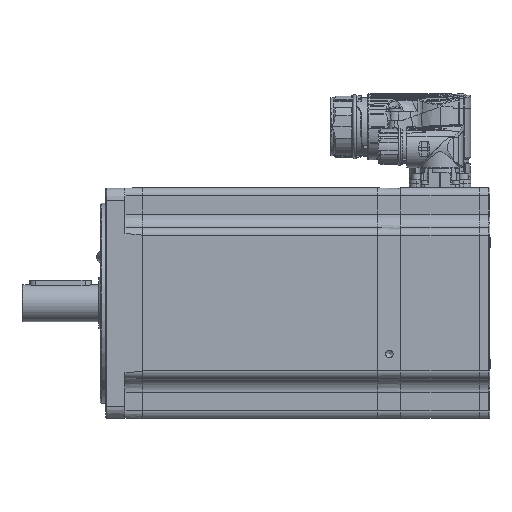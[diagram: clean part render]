
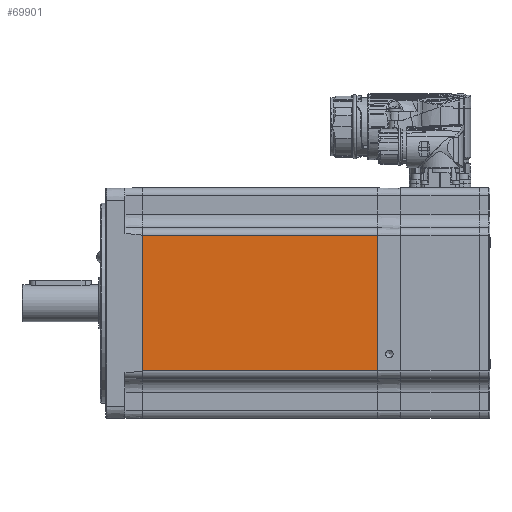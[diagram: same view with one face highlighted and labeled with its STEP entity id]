
A CAD part, left-side view. The second image highlights one B-rep face of the part: STEP entity #69901.
In plain terms, the highlighted planar face has unit normal (-1, 0, 0) as drawn and (0, -1, 0) by its records, which use the part's own axes.
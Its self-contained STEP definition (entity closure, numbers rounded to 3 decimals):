
#2921=LINE('',#135913,#5504);
#2942=LINE('',#136011,#5525);
#2945=LINE('',#136044,#5528);
#2946=LINE('',#136045,#5529);
#5504=VECTOR('',#82359,1000.);
#5525=VECTOR('',#82436,1000.);
#5528=VECTOR('',#82475,1000.);
#5529=VECTOR('',#82476,1000.);
#17984=ORIENTED_EDGE('',*,*,#28083,.F.);
#17985=ORIENTED_EDGE('',*,*,#28144,.T.);
#17986=ORIENTED_EDGE('',*,*,#28131,.T.);
#17987=ORIENTED_EDGE('',*,*,#28145,.T.);
#28083=EDGE_CURVE('',#33739,#33740,#2921,.T.);
#28131=EDGE_CURVE('',#33788,#33787,#2942,.T.);
#28144=EDGE_CURVE('',#33739,#33788,#2945,.T.);
#28145=EDGE_CURVE('',#33787,#33740,#2946,.F.);
#33739=VERTEX_POINT('',#135914);
#33740=VERTEX_POINT('',#135915);
#33787=VERTEX_POINT('',#136010);
#33788=VERTEX_POINT('',#136012);
#40131=EDGE_LOOP('',(#17984,#17985,#17986,#17987));
#44055=FACE_BOUND('',#40131,.T.);
#46224=PLANE('',#73982);
#69901=ADVANCED_FACE('',(#44055),#46224,.T.);
#73982=AXIS2_PLACEMENT_3D('',#136043,#82473,#82474);
#82359=DIRECTION('',(0.,0.,-1.));
#82436=DIRECTION('',(0.,0.,-1.));
#82473=DIRECTION('',(0.,-1.,0.));
#82474=DIRECTION('',(0.,0.,-1.));
#82475=DIRECTION('',(-1.,0.,0.));
#82476=DIRECTION('',(-1.,0.,0.));
#135913=CARTESIAN_POINT('',(-1.,-75.,75.));
#135914=CARTESIAN_POINT('',(-1.,-75.,44.));
#135915=CARTESIAN_POINT('',(-1.,-75.,-44.));
#136010=CARTESIAN_POINT('',(-154.,-75.,-44.));
#136011=CARTESIAN_POINT('',(-154.,-75.,75.));
#136012=CARTESIAN_POINT('',(-154.,-75.,44.));
#136043=CARTESIAN_POINT('',(-300.,-75.,75.));
#136044=CARTESIAN_POINT('',(-300.,-75.,44.));
#136045=CARTESIAN_POINT('',(0.,-75.,-44.));
